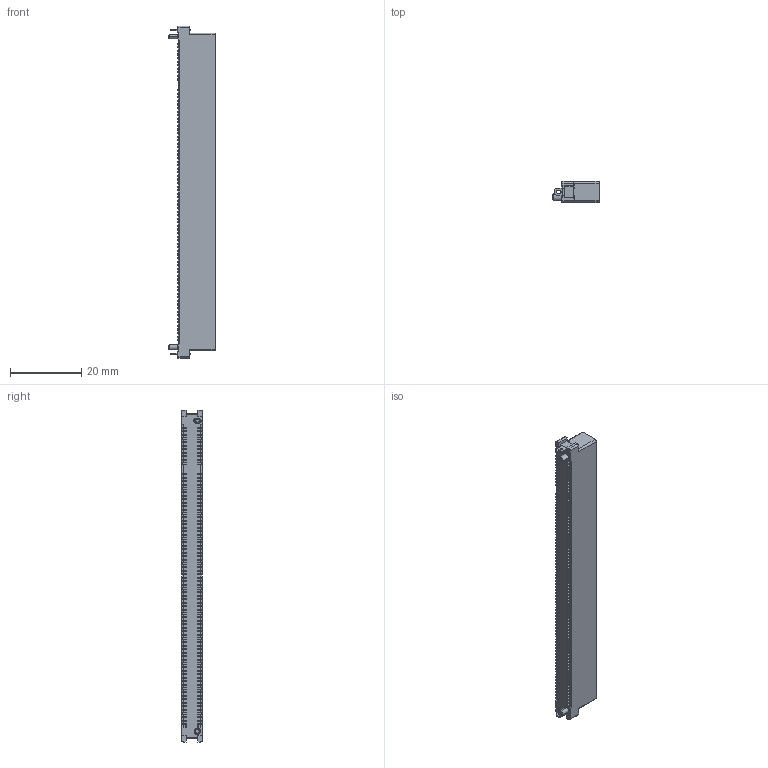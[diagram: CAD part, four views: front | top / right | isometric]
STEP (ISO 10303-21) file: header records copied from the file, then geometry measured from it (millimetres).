
FILE_DESCRIPTION((''),'2;1');
FILE_NAME('SLIM_PCIE5_0_SLOT_PLUS_164PIN_S','2026-07-10T17:08:25',('39000620'),(''),'CREO PARAMETRIC BY PTC INC, 2019471','CREO PARAMETRIC BY PTC INC, 2019471','');
FILE_SCHEMA(('CONFIG_CONTROL_DESIGN'));
Products named in the file (1): SLIM_PCIE5_0_SLOT_PLUS_164PIN_S
Bounding box: 12.9 x 5.8 x 93 mm (x, y, z)
Volume: 4182.8 mm3; surface area: 5008.6 mm2
Topology: 1 solids, 3 shells, 3719 faces, 10428 edges, 6711 vertices
Faces by surface type: plane 2807, cylinder 894, bspline 12, torus 2, cone 2, extrusion 2
Entity records: 120868 total; most frequent: CARTESIAN_POINT 23158, ORIENTED_EDGE 20856, DIRECTION 19570, EDGE_CURVE 10428, VECTOR 8624, LINE 8622, VERTEX_POINT 6711, AXIS2_PLACEMENT_3D 5473
